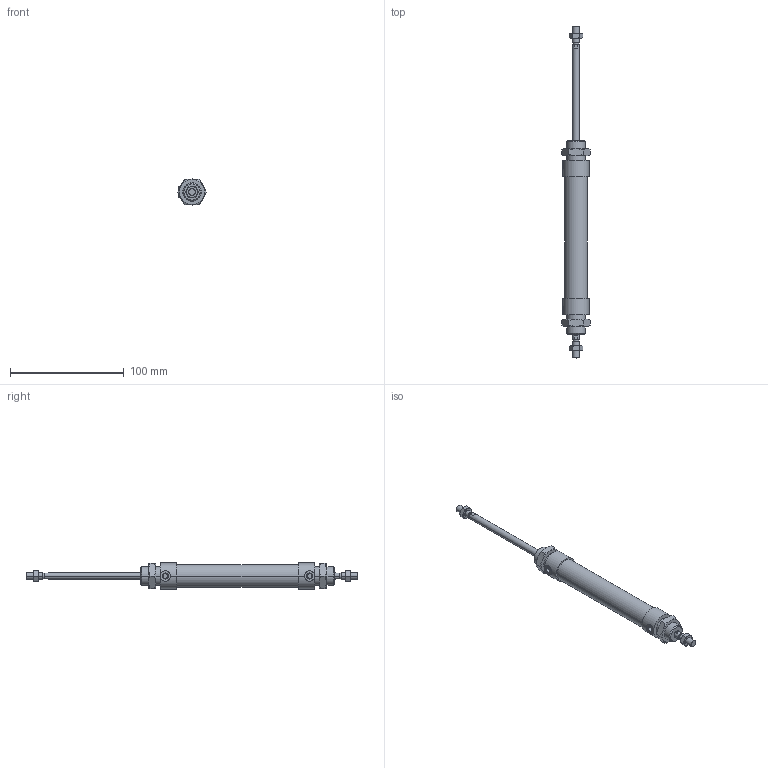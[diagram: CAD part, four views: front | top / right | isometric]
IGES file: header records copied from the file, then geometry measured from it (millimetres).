
Global section: file name: No Iges File Name specified; native system: AutoDesk Inventor R10; preprocessor: AutoDesk Inventor Iges Exporter R10; author: No Author specified; organization: No Organization specified; date: 20060105.143343; units: millimetre
Bounding box: 25.4 x 292 x 23 mm (x, y, z)
Volume: 59239.5 mm3; surface area: 23350.5 mm2
Topology: 6 solids, 6 shells, 184 faces, 394 edges, 230 vertices
Faces by surface type: cone 68, plane 58, cylinder 24, bspline 20, revolution 14
